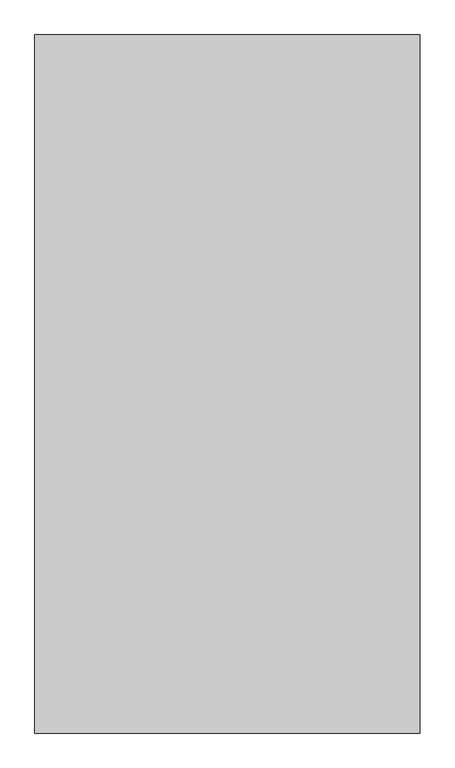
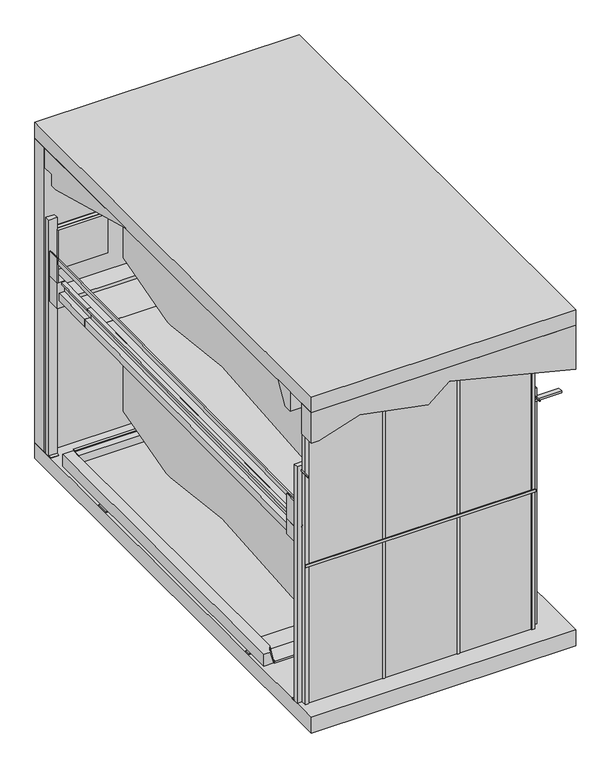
"""IFC4 building model written with IfcOpenShell, lengths in millimetres: proxy geometry, TrendVario 6200+ : TrendVario 6200+."""

from ifc_helpers import new_model, si_unit, point, frame, frame_2d, origin, origin_with_axes, place, context, project, spatial, polyline, circle_curve, trimmed, segment, composite_curve, outline, extrude, faceted_brep, source, transform, mapped, element, save
from ifc_brep_helpers import plane_surface, cylinder_surface, spline_surface, advanced_brep


def generic_models_abb25ee0(model_context):
    return source(origin(), model_context, "Body", "SolidModel", [
        extrude(outline(composite_curve([segment(trimmed(circle_curve(frame_2d((2850.0, 5300.0602659)), 6.0), [point((2850.0, 5294.0602659))], [point((2850.0, 5306.0602659))], False, "CARTESIAN"), True, "CONTINUOUS"), segment(trimmed(circle_curve(frame_2d((2850.0, 5300.0602659)), 6.0), [point((2850.0, 5306.0602659))], [point((2850.0, 5294.0602659))], False, "CARTESIAN"), True, "CONTINUOUS")], self_intersect=False)), frame((0.0, 0.0, -150.0), z_axis=(0.0, 0.0, 1.0), x_axis=(1.0, 0.0, 0.0)), (0.0, 0.0, 1.0), 150.0),
        extrude(outline(composite_curve([segment(trimmed(circle_curve(frame_2d((50.0, 5300.0602653)), 6.0), [point((44.0, 5300.0602653))], [point((56.0, 5300.0602653))], False, "CARTESIAN"), True, "CONTINUOUS"), segment(trimmed(circle_curve(frame_2d((50.0, 5300.0602653)), 6.0), [point((56.0, 5300.0602653))], [point((44.0, 5300.0602653))], False, "CARTESIAN"), True, "CONTINUOUS")], self_intersect=False)), frame((0.0, 0.0, -150.0), z_axis=(0.0, 0.0, 1.0), x_axis=(1.0, 0.0, 0.0)), (0.0, 0.0, 1.0), 150.0),
        extrude(outline(composite_curve([segment(trimmed(circle_curve(frame_2d((2850.0, 170.0)), 6.0), [point((2850.0, 164.0))], [point((2850.0, 176.0))], False, "CARTESIAN"), True, "CONTINUOUS"), segment(trimmed(circle_curve(frame_2d((2850.0, 170.0)), 6.0), [point((2850.0, 176.0))], [point((2850.0, 164.0))], False, "CARTESIAN"), True, "CONTINUOUS")], self_intersect=False)), frame((0.0, 0.0, -150.0), z_axis=(0.0, 0.0, 1.0), x_axis=(1.0, 0.0, 0.0)), (0.0, 0.0, 1.0), 150.0),
        extrude(outline(composite_curve([segment(trimmed(circle_curve(frame_2d((50.0, 170.0)), 6.0), [point((44.0, 170.0))], [point((56.0, 170.0))], False, "CARTESIAN"), True, "CONTINUOUS"), segment(trimmed(circle_curve(frame_2d((50.0, 170.0)), 6.0), [point((56.0, 170.0))], [point((44.0, 170.0))], False, "CARTESIAN"), True, "CONTINUOUS")], self_intersect=False)), frame((0.0, 0.0, -150.0), z_axis=(0.0, 0.0, 1.0), x_axis=(1.0, 0.0, 0.0)), (0.0, 0.0, 1.0), 150.0),
        extrude(outline(composite_curve([segment(trimmed(circle_curve(frame_2d((2965.0, 2850.0)), 6.0), [point((2965.0, 2844.0))], [point((2965.0, 2856.0))], False, "CARTESIAN"), True, "CONTINUOUS"), segment(trimmed(circle_curve(frame_2d((2965.0, 2850.0)), 6.0), [point((2965.0, 2856.0))], [point((2965.0, 2844.0))], False, "CARTESIAN"), True, "CONTINUOUS")], self_intersect=False)), frame((0.0, -50.0, 0.0), z_axis=(0.0, 1.0, 0.0), x_axis=(0.0, 0.0, 1.0)), (0.0, 0.0, 1.0), 150.0),
        extrude(outline(composite_curve([segment(trimmed(circle_curve(frame_2d((2965.0, 50.0)), 6.0), [point((2965.0, 44.0))], [point((2965.0, 56.0))], False, "CARTESIAN"), True, "CONTINUOUS"), segment(trimmed(circle_curve(frame_2d((2965.0, 50.0)), 6.0), [point((2965.0, 56.0))], [point((2965.0, 44.0))], False, "CARTESIAN"), True, "CONTINUOUS")], self_intersect=False)), frame((0.0, -50.0, 0.0), z_axis=(0.0, 1.0, 0.0), x_axis=(0.0, 0.0, 1.0)), (0.0, 0.0, 1.0), 150.0),
        extrude(outline(composite_curve([segment(trimmed(circle_curve(frame_2d((2965.0, 50.0)), 6.0), [point((2965.0, 44.0))], [point((2965.0, 56.0))], False, "CARTESIAN"), True, "CONTINUOUS"), segment(trimmed(circle_curve(frame_2d((2965.0, 50.0)), 6.0), [point((2965.0, 56.0))], [point((2965.0, 44.0))], False, "CARTESIAN"), True, "CONTINUOUS")], self_intersect=False)), frame((0.0, 5369.5816653, 0.0), z_axis=(0.0, 1.0, 0.0), x_axis=(0.0, 0.0, 1.0)), (0.0, 0.0, 1.0), 150.0),
        extrude(outline(composite_curve([segment(trimmed(circle_curve(frame_2d((2965.0, 2850.0)), 6.0), [point((2965.0, 2844.0))], [point((2965.0, 2856.0))], False, "CARTESIAN"), True, "CONTINUOUS"), segment(trimmed(circle_curve(frame_2d((2965.0, 2850.0)), 6.0), [point((2965.0, 2856.0))], [point((2965.0, 2844.0))], False, "CARTESIAN"), True, "CONTINUOUS")], self_intersect=False)), frame((0.0, 5369.6045102, 0.0), z_axis=(0.0, 1.0, 0.0), x_axis=(0.0, 0.0, 1.0)), (0.0, 0.0, 1.0), 150.0),
        extrude(outline(polyline([(0.0, -60.0), (0.0, 0.0), (4430.0, 0.0), (4430.0, -60.0), (0.0, -60.0)])), frame((2811.0, 171.9869847, 2038.264563), z_axis=(0.0, -0.008726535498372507, 0.9999619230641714), x_axis=(0.0, 0.9999619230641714, 0.008726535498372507)), (0.0, 0.0, 1.0), 100.0),
        extrude(outline(polyline([(0.0, -19.0), (0.0, 0.0), (4440.0, 0.0), (4440.0, -19.0), (0.0, -19.0)])), frame((2863.0, 167.9116926, 2505.246781), z_axis=(0.0, -0.008726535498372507, 0.9999619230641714), x_axis=(0.0, 0.9999619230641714, 0.008726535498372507)), (0.0, 0.0, 1.0), 56.0),
        faceted_brep([(2800.0, 4599.8286538, 2304.9144337), (2843.0, 4599.8286538, 2304.9144337), (2843.0, 4600.0904499, 2274.915576), (2840.0, 4600.0904499, 2274.915576), (2840.0, 4599.8548334, 2301.9145479), (2803.0, 4599.8548334, 2301.9145479), (2803.0, 4602.6211451, 1984.9266183), (2748.0, 4602.6211451, 1984.9266183), (2748.0, 4602.210998, 2031.9248287), (2711.0, 4602.210998, 2031.9248287), (2711.0, 4602.1848184, 2034.9247145), (2751.0, 4602.1848184, 2034.9247145), (2751.0, 4602.5949655, 1987.9265041), (2800.0, 4602.5949655, 1987.9265041), (2803.0, 102.7924914, 1945.6572086), (2803.0, 100.0261796, 2262.6451382), (2840.0, 100.0261796, 2262.6451382), (2840.0, 100.2617961, 2235.6461663), (2843.0, 100.2617961, 2235.6461663), (2843.0, 100.0, 2265.645024), (2800.0, 100.0, 2265.645024), (2800.0, 102.7924914, 1945.6572086), (2800.0, 202.7886837, 1946.5298621), (2748.0, 202.7886837, 1946.5298621), (2748.0, 202.3785365, 1993.5280725), (2711.0, 202.3785365, 1993.5280725), (2711.0, 202.3523569, 1996.5279583), (2751.0, 202.3523569, 1996.5279583), (2751.0, 202.7625041, 1949.5297479), (2800.0, 202.7625041, 1949.5297479)], [[[0, 1, 2, 3, 4, 5, 6, 7, 8, 9, 10, 11, 12, 13]], [[14, 15, 16, 17, 18, 19, 20, 21]], [[1, 0, 20, 19]], [[2, 1, 19, 18]], [[3, 2, 18, 17]], [[4, 3, 17, 16]], [[5, 4, 16, 15]], [[6, 5, 15, 14]], [[7, 6, 14, 21, 22, 23]], [[8, 7, 23, 24]], [[9, 8, 24, 25]], [[10, 9, 25, 26]], [[11, 10, 26, 27]], [[12, 11, 27, 28]], [[13, 12, 28, 29]], [[0, 13, 29, 22, 21, 20]], [[22, 29, 28, 27, 26, 25, 24, 23]]]),
        extrude(outline(polyline([(2133.867435, 0.0), (2133.867435, -1200.0), (-1962.132565, -1200.0), (-1962.132565, 0.0), (2133.867435, 0.0)])), frame((1600.0, 2468.3986345, 2016.3034445), z_axis=(0.0, -0.008726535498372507, 0.9999619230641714), x_axis=(0.0, 0.9999619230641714, 0.008726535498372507)), (0.0, 0.0, 1.0), 8.0),
        extrude(outline(polyline([(0.0, -1500.0), (0.0, 0.0), (769.9999999, 0.0), (769.9999999, -1500.0), (0.0, -1500.0)])), frame((100.0, 4602.1898877, 2034.9247587), z_axis=(0.0, -0.008726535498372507, 0.9999619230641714), x_axis=(0.0, 0.9999619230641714, 0.008726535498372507)), (0.0, 0.0, 1.0), 8.0),
        extrude(outline(polyline([(5133.7158509, 2091.5652956), (5371.7067886, 2093.642211), (5372.0907561, 2049.6438864), (5369.0908704, 2049.6177068), (5368.7330824, 2090.6161457), (5136.7419163, 2088.5915894), (5137.0997042, 2047.5931506), (5134.0998185, 2047.566971), (5133.7158509, 2091.5652956)])), frame((100.0, 0.0, 0.0), z_axis=(1.0, 0.0, 0.0), x_axis=(0.0, 1.0, 0.0)), (0.0, 0.0, 1.0), 1500.0),
        extrude(outline(polyline([(319.9999999, 0.0), (319.9999999, -43.0), (289.9999999, -43.0), (289.9999999, -40.0), (317.0, -40.0), (317.0, -3.0), (0.0, -3.0), (0.0, 52.0), (46.9999999, 52.0), (46.9999999, 89.0), (49.9999999, 89.0), (49.9999999, 49.0), (2.9999999, 49.0), (2.9999999, 0.0), (319.9999999, 0.0)])), frame((100.0, 4602.6262144, 1984.9266626), z_axis=(0.0, 0.9999619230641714, 0.008726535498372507), x_axis=(0.0, -0.008726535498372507, 0.9999619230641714)), (0.0, 0.0, 1.0), 770.0),
        extrude(outline(polyline([(200.0, 8.0), (200.0, 0.0), (100.0, 0.0), (100.0, 3025.0), (160.0, 3025.0), (160.0, 8.0), (200.0, 8.0)])), frame((0.0, 0.0, 0.0), z_axis=(1.0, 0.0, 0.0), x_axis=(0.0, 1.0, 0.0)), (0.0, 0.0, 1.0), 100.0),
        faceted_brep([(0.0, 5249.9885779, 3650.0), (3201.0, 5249.9885779, 3650.0), (3201.0, 5249.9885779, 3500.0), (0.0, 5249.9885779, 3500.0), (0.0, 5399.9657348, 3650.0), (3201.0, 5399.9657348, 3650.0), (3201.0, 5167.6820669, 3500.0), (3201.0, 3699.9673137, 3900.0057953), (0.0, 3699.9885779, 3900.0), (0.0, 5167.6820669, 3500.0), (3201.0, 5399.9657348, 3900.0), (0.0, 5399.9657348, 3900.0)], [[[0, 1, 2, 3]], [[1, 0, 4, 5]], [[6, 7, 8, 9]], [[10, 7, 6, 2, 1, 5]], [[8, 11, 4, 0, 3, 9]], [[11, 10, 5, 4]], [[7, 10, 11, 8]], [[2, 6, 9, 3]]]),
        extrude(outline(polyline([(3511.8273555, 0.0), (3511.8273555, 90.0080034), (3672.5161926, 584.5573919), (3511.8273555, 1411.229794), (3719.8801857, 1665.5456754), (3337.0484255, 3201.0), (3900.0, 3201.0), (3900.0, 0.0), (3511.8273555, 0.0)])), frame((0.0, -200.0, 0.0), z_axis=(0.0, 1.0, 0.0), x_axis=(0.0, 0.0, 1.0)), (0.0, 0.0, 1.0), 200.0),
        extrude(outline(polyline([(100.0, 45.0), (100.0, 55.0), (2800.0, 55.0), (2800.0, 45.0), (100.0, 45.0)])), origin_with_axes(), (0.0, 0.0, 1.0), 3526.0),
        extrude(outline(polyline([(1932.0, 44.0), (1932.0, 35.0), (1902.0, 35.0), (1902.0, 44.0), (1932.0, 44.0)])), origin_with_axes(), (0.0, 0.0, 1.0), 3526.0),
        extrude(outline(polyline([(1031.0, 44.0), (1031.0, 35.0), (1001.0, 35.0), (1001.0, 44.0), (1031.0, 44.0)])), origin_with_axes(), (0.0, 0.0, 1.0), 3526.0),
        extrude(outline(polyline([(0.0, -19.0), (0.0, 0.0), (5147.1058324, 0.0), (5147.1058324, -19.0), (0.0, -19.0)])), frame((37.0, 5302.7546227, 2550.0578764), z_axis=(0.0, -0.008726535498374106, 0.9999619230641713), x_axis=(0.0, -0.9999619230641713, -0.008726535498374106)), (0.0, 0.0, 1.0), 56.0),
        extrude(outline(polyline([(18.0, 5142.5968952), (7.0, 5142.5968952), (7.0, 5312.5968952), (18.0, 5312.5968952), (18.0, 5142.5968952)])), frame((0.0, 0.0, 2319.0), z_axis=(0.0, 0.0, 1.0), x_axis=(1.0, 0.0, 0.0)), (0.0, 0.0, 1.0), 310.0),
        extrude(outline(polyline([(2882.0, 5142.0602659), (2882.0, 5312.0602659), (2893.0, 5312.0602659), (2893.0, 5142.0602659), (2882.0, 5142.0602659)])), frame((0.0, 0.0, 2319.0), z_axis=(0.0, 0.0, 1.0), x_axis=(1.0, 0.0, 0.0)), (0.0, 0.0, 1.0), 310.0),
        advanced_brep(
        [(2878.3930268, 838.0907234, 21.8284597), (2878.3930268, 838.0907234, 173.2797049), (2800.0, 838.0907234, 173.2797049), (2760.0, 838.0907234, 21.8284597), (2878.3930268, 5057.0907234, 21.8284597), (2750.0, 5057.0907234, 21.8284597), (2750.0, 5057.0907234, 173.2797049), (2878.3930268, 5057.0907234, 173.2797049), (2750.0, 938.0907234, 173.2797049), (2750.0, 848.0907234, 21.8284597)],
        [
            (0, 1),
            (1, 2),
            (2, 3),
            (3, 0),
            (4, 5),
            (5, 6),
            (6, 7),
            (7, 4),
            (0, 4),
            (7, 1),
            (6, 8),
            (8, 2),
            (5, 9),
            (9, 8),
            (3, 9),
        ],
        [
            plane_surface(frame((2750.0, 838.0907234, 0.0), z_axis=(0.0, -1.0, 0.0), x_axis=(0.0, 0.0, 1.0))),
            plane_surface(frame((2750.0, 5057.0907234, 0.0), z_axis=(0.0, 1.0, 0.0), x_axis=(0.0, 0.0, 1.0))),
            plane_surface(frame((2878.3930268, 838.0907234, 21.8284597), z_axis=(1.0, 0.0, 0.0), x_axis=(0.0, 1.0, 0.0))),
            plane_surface(frame((2878.3930268, 838.0907234, 173.2797049), z_axis=(0.0, 0.0, 1.0), x_axis=(0.0, 1.0, 0.0))),
            plane_surface(frame((2750.0, 838.0907234, 173.2797049), z_axis=(-1.0, 0.0, 0.0), x_axis=(0.0, 1.0, 0.0))),
            plane_surface(frame((2750.0, 838.0907234, 21.8284597), z_axis=(0.0, 0.0, -1.0), x_axis=(0.0, 1.0, 0.0))),
            spline_surface(1, 1, [[(2750.0, 938.0907234, 173.2797049), (2800.0, 838.0907234, 173.2797049)], [(2750.0, 848.0907234, 21.8284597), (2760.0, 838.0907234, 21.8284597)]], [2, 2], [2, 2], [0.0, 1.0], [0.0, 1.0]),
        ],
        [
            (0, [[1, 2, 3, 4]]),
            (1, [[5, 6, 7, 8]]),
            (2, [[-1, 9, -8, 10]]),
            (3, [[-7, 11, 12, -2, -10]]),
            (4, [[-6, 13, 14, -11]]),
            (5, [[-5, -9, -4, 15, -13]]),
            (6, [[-3, -12, -14, -15]]),
        ],
    ),
        advanced_brep(
        [(22.4384321, 838.0907234, 173.2797049), (22.4384321, 838.0907234, 20.8412855), (140.0, 838.0907234, 20.8412855), (100.0, 838.0907234, 173.2797049), (150.0, 5057.0907234, 20.8412855), (22.4384321, 5057.0907234, 20.8412855), (22.4384321, 5057.0907234, 173.2797049), (150.0, 5057.0907234, 173.2797049), (150.0, 938.0907234, 173.2797049), (150.0, 848.0907234, 20.8412855)],
        [
            (0, 1),
            (1, 2),
            (2, 3),
            (3, 0),
            (4, 5),
            (5, 6),
            (6, 7),
            (7, 4),
            (7, 8),
            (8, 9),
            (9, 4),
            (6, 0),
            (3, 8),
            (5, 1),
            (9, 2),
        ],
        [
            plane_surface(frame((150.0, 838.0907234, 20.8412855), z_axis=(0.0, -1.0, 0.0), x_axis=(0.0, 0.0, 1.0))),
            plane_surface(frame((150.0, 5057.0907234, 20.8412855), z_axis=(0.0, 1.0, 0.0), x_axis=(0.0, 0.0, -1.0))),
            plane_surface(frame((150.0, 838.0907234, 20.8412855), z_axis=(1.0, 0.0, 0.0), x_axis=(0.0, 1.0, 0.0))),
            plane_surface(frame((150.0, 838.0907234, 173.2797049), z_axis=(0.0, 0.0, 1.0), x_axis=(0.0, 1.0, 0.0))),
            plane_surface(frame((22.4384321, 838.0907234, 173.2797049), z_axis=(-1.0, 0.0, 0.0), x_axis=(0.0, 1.0, 0.0))),
            plane_surface(frame((22.4384321, 838.0907234, 20.8412855), z_axis=(0.0, 0.0, -1.0), x_axis=(0.0, 1.0, 0.0))),
            spline_surface(1, 1, [[(150.0, 848.0907234, 20.8412855), (140.0, 838.0907234, 20.8412855)], [(150.0, 938.0907234, 173.2797049), (100.0, 838.0907234, 173.2797049)]], [2, 2], [2, 2], [0.0, 1.0], [0.0, 1.0]),
        ],
        [
            (0, [[1, 2, 3, 4]]),
            (1, [[5, 6, 7, 8]]),
            (2, [[-8, 9, 10, 11]]),
            (3, [[-7, 12, -4, 13, -9]]),
            (4, [[-1, -12, -6, 14]]),
            (5, [[-5, -11, 15, -2, -14]]),
            (6, [[-3, -15, -10, -13]]),
        ],
    ),
        extrude(outline(polyline([(5369.6045102, 0.0), (5270.0602659, 0.0), (5270.0602659, 8.0), (5310.0602659, 8.0), (5310.0602659, 3025.0), (5369.6045102, 3025.0), (5369.6045102, 0.0)])), frame((2800.0, 0.0, 0.0), z_axis=(1.0, 0.0, 0.0), x_axis=(0.0, 1.0, 0.0)), (0.0, 0.0, 1.0), 100.0),
        extrude(outline(polyline([(5269.5968952, 0.0), (5269.5968952, 8.0), (5309.5968952, 8.0), (5309.5968952, 3025.0), (5369.5968952, 3025.0), (5369.5968952, 0.0), (5269.5968952, 0.0)])), frame((0.0, 0.0, 0.0), z_axis=(1.0, 0.0, 0.0), x_axis=(0.0, 1.0, 0.0)), (0.0, 0.0, 1.0), 100.0),
        advanced_brep(
        [(850.0, 5220.0526533, 335.5997321), (850.0, 4313.3699728, 92.6548401), (850.0, 4224.7221662, 85.0351129), (850.0, 3145.3807126, 219.0), (850.0, 1424.180165, 85.3914386), (850.0, 1340.4923675, 90.5100035), (850.0, 220.4923675, 349.0823776), (850.0, 220.4923675, 1334.0), (850.0, 520.4923675, 1884.0), (850.0, 3620.0831131, 1884.0000002), (850.0, 5220.0526556, 1434.0085664), (2750.0, 220.4923675, 349.0823776), (2750.0, 1340.4923675, 90.5100035), (2750.0, 1424.180165, 85.3914386), (2750.0, 3145.3807126, 219.0), (2750.0, 4224.7221662, 85.0351129), (2750.0, 4313.3699728, 92.6548401), (2750.0, 5220.0526533, 335.5997321), (2750.0, 5220.0526556, 1434.0085664), (2750.0, 3620.0831131, 1884.0000002), (2750.0, 520.4923675, 1884.0), (2750.0, 220.4923675, 1334.0)],
        [
            (0, 1),
            (1, 2, circle_curve(frame((850.0, 4247.6299354, 338.0), z_axis=(-1.0, 0.0, 0.0), x_axis=(0.0, 1.0, 0.0)), 254.0)),
            (2, 3),
            (3, 4),
            (4, 5, circle_curve(frame((850.0, 1397.6299354, 338.0), z_axis=(-1.0, 0.0, 0.0), x_axis=(0.0, 1.0, 0.0)), 254.0)),
            (5, 6),
            (6, 7),
            (7, 8),
            (8, 9),
            (9, 10),
            (10, 0),
            (11, 12),
            (12, 13, circle_curve(frame((2750.0, 1397.6299354, 338.0), z_axis=(1.0, 0.0, 0.0), x_axis=(0.0, 1.0, 0.0)), 254.0)),
            (13, 14),
            (14, 15),
            (15, 16, circle_curve(frame((2750.0, 4247.6299354, 338.0), z_axis=(1.0, 0.0, 0.0), x_axis=(0.0, 1.0, 0.0)), 254.0)),
            (16, 17),
            (17, 18),
            (18, 19),
            (19, 20),
            (20, 21),
            (21, 11),
            (17, 0),
            (10, 18),
            (16, 1),
            (15, 2),
            (14, 3),
            (13, 4),
            (12, 5),
            (11, 6),
            (21, 7),
            (9, 19),
            (8, 20),
        ],
        [
            plane_surface(frame((850.0, 220.4923675, 0.0), z_axis=(-1.0, 0.0, 0.0), x_axis=(0.0, 0.0, 1.0))),
            plane_surface(frame((2750.0, 220.4923675, 0.0), z_axis=(1.0, 0.0, 0.0), x_axis=(0.0, 0.0, 1.0))),
            plane_surface(frame((850.0, 5220.0526533, 1105.8846371), z_axis=(0.0, 1.0, 0.0), x_axis=(1.0, 0.0, 0.0))),
            plane_surface(frame((850.0, 5220.0526533, 335.5997321), z_axis=(0.0, 0.25881904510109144, -0.9659258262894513), x_axis=(1.0, 0.0, 0.0))),
            cylinder_surface(frame((850.0, 4247.6299354, 338.0), z_axis=(-1.0, 0.0, 0.0), x_axis=(0.0, 1.0, 0.0)), 254.0),
            plane_surface(frame((850.0, 4224.7221662, 85.0351129), z_axis=(0.0, -0.12317213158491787, -0.992385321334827), x_axis=(1.0, 0.0, 0.0))),
            plane_surface(frame((850.0, 3145.3807126, 219.0), z_axis=(0.0, 0.07739239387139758, -0.9970007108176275), x_axis=(1.0, 0.0, 0.0))),
            cylinder_surface(frame((850.0, 1397.6299354, 338.0), z_axis=(-1.0, 0.0, 0.0), x_axis=(0.0, 1.0, 0.0)), 254.0),
            plane_surface(frame((850.0, 1340.4923675, 90.5100035), z_axis=(0.0, -0.22495105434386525, -0.9743700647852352), x_axis=(1.0, 0.0, 0.0))),
            plane_surface(frame((850.0, 220.4923675, 349.0823776), z_axis=(0.0, -1.0, 0.0), x_axis=(1.0, 0.0, 0.0))),
            plane_surface(frame((850.0, 3620.0831131, 1884.0000002), z_axis=(0.0, 0.27074557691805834, 0.9626509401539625), x_axis=(1.0, 0.0, 0.0))),
            plane_surface(frame((850.0, 620.4885622, 1884.0000002), z_axis=(0.0, 0.0, 1.0), x_axis=(1.0, 0.0, 0.0))),
            plane_surface(frame((850.0, 220.4923675, 1334.0), z_axis=(0.0, -0.8778955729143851, 0.478852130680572), x_axis=(1.0, 0.0, 0.0))),
        ],
        [
            (0, [[1, 2, 3, 4, 5, 6, 7, 8, 9, 10, 11]]),
            (1, [[12, 13, 14, 15, 16, 17, 18, 19, 20, 21, 22]]),
            (2, [[23, -11, 24, -18]]),
            (3, [[-1, -23, -17, 25]]),
            (4, [[-2, -25, -16, 26]]),
            (5, [[-3, -26, -15, 27]]),
            (6, [[-4, -27, -14, 28]]),
            (7, [[-5, -28, -13, 29]]),
            (8, [[-6, -29, -12, 30]]),
            (9, [[-7, -30, -22, 31]]),
            (10, [[-10, 32, -19, -24]]),
            (11, [[-20, -32, -9, 33]]),
            (12, [[-8, -31, -21, -33]]),
        ],
    ),
        advanced_brep(
        [(850.0080034, 219.0783305, 2530.0), (850.0080034, 212.7549246, 3254.5905482), (850.0080034, 507.9448535, 3807.0791047), (850.0080034, 614.5742843, 3808.0096456), (850.0080034, 616.0660458, 3810.8016825), (850.0080034, 3620.0751529, 3837.0172728), (850.0080034, 5220.0526533, 3400.9650555), (850.0080034, 5220.0602659, 2299.8475577), (850.0080034, 4315.7898833, 2049.0711861), (850.0080034, 4227.211946, 2040.6781608), (850.0080034, 3146.7425411, 2165.2190354), (850.0080034, 1426.7734714, 2016.5954437), (850.0080034, 1343.0441931, 2020.9835093), (850.0080034, 226.8699728, 2268.4333765), (850.0080034, 224.5873155, 2530.0), (2750.0080034, 507.9448535, 3807.0791047), (2750.0080034, 212.7549245, 3254.5905482), (2750.0080034, 219.0783305, 2530.0), (2750.0080034, 224.5873155, 2530.0), (2750.0080034, 226.8699728, 2268.4333765), (2750.0080034, 1343.0441931, 2020.9835093), (2750.0080034, 1426.7734714, 2016.5954437), (2750.0080034, 3146.7425411, 2165.2190354), (2750.0080034, 4227.211946, 2040.6781608), (2750.0080034, 4315.7898833, 2049.0711861), (2750.0080034, 5220.0602659, 2299.8475577), (2750.0080034, 5220.0526533, 3400.9650555), (2750.0080034, 3620.0751529, 3837.0172728), (2750.0080034, 616.0660458, 3810.8016825), (2750.0080034, 614.5742843, 3808.0096456)],
        [
            (0, 1),
            (1, 2),
            (2, 3),
            (3, 4),
            (4, 5),
            (5, 6),
            (6, 7),
            (7, 8),
            (8, 9, circle_curve(frame((850.0080034, 4247.9113358, 2293.8333213), z_axis=(-1.0, 6.846874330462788e-12, 0.0), x_axis=(6.846340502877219e-12, 0.9999619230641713, 0.008726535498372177)), 254.0)),
            (9, 10),
            (10, 11),
            (11, 12, circle_curve(frame((850.0080034, 1398.0198551, 2268.9626951), z_axis=(-1.0, 6.846874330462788e-12, 0.0), x_axis=(6.846340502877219e-12, 0.9999619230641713, 0.008726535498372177)), 254.0)),
            (12, 13),
            (13, 14),
            (14, 0),
            (15, 16),
            (16, 17),
            (17, 18),
            (18, 19),
            (19, 20),
            (20, 21, circle_curve(frame((2750.0080034, 1398.0198551, 2268.9626951), z_axis=(1.0, -6.846874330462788e-12, 0.0), x_axis=(6.846340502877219e-12, 0.9999619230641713, 0.008726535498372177)), 254.0)),
            (21, 22),
            (22, 23),
            (23, 24, circle_curve(frame((2750.0080034, 4247.9113358, 2293.8333213), z_axis=(1.0, -6.846874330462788e-12, 0.0), x_axis=(6.846340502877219e-12, 0.9999619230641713, 0.008726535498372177)), 254.0)),
            (24, 25),
            (25, 26),
            (26, 27),
            (27, 28),
            (28, 29),
            (29, 15),
            (2, 15),
            (29, 3),
            (1, 16),
            (17, 0),
            (14, 18),
            (4, 28),
            (27, 5),
            (26, 6),
            (25, 7),
            (24, 8),
            (23, 9),
            (22, 10),
            (21, 11),
            (20, 12),
            (19, 13),
        ],
        [
            plane_surface(frame((850.0080034, 428.8717402, 3900.0), z_axis=(-1.0, 6.846035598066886e-12, 0.0), x_axis=(0.0, 0.0, 1.0))),
            plane_surface(frame((2750.0080034, 428.8717402, 3900.0), z_axis=(1.0, -6.846035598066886e-12, 0.0), x_axis=(0.0, 0.0, 1.0))),
            plane_surface(frame((850.0080034, 507.9448535, 3807.0791047), z_axis=(0.0, -0.008726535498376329, 0.9999619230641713), x_axis=(1.0, -6.846035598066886e-12, 0.0))),
            plane_surface(frame((850.0080034, 212.7549246, 3254.5905482), z_axis=(-6.038215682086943e-12, -0.8820017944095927, 0.4712460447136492), x_axis=(1.0, -6.846035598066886e-12, 0.0))),
            plane_surface(frame((850.0080034, 4789.9238543, 2530.0), z_axis=(0.0, 0.0, -1.0), x_axis=(1.0, -6.845999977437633e-12, 0.0))),
            plane_surface(frame((850.0080034, 219.0783305, 2530.0), z_axis=(-6.845774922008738e-12, -0.9999619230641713, -0.008726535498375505), x_axis=(1.0, -6.846035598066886e-12, 0.0))),
            plane_surface(frame((850.0080034, 616.0660458, 3810.8016825), z_axis=(0.0, -0.008726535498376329, 0.9999619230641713), x_axis=(1.0, -6.845999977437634e-12, 0.0))),
            plane_surface(frame((850.0080034, 3620.0751529, 3837.0172728), z_axis=(1.8001286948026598e-12, 0.2629460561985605, 0.9648105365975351), x_axis=(1.0, -6.845999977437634e-12, 0.0))),
            plane_surface(frame((850.0080034, 320.8761169, 3258.313126), z_axis=(-6.0382156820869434e-12, -0.8820017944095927, 0.4712460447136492), x_axis=(1.0, -6.846035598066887e-12, 0.0))),
            plane_surface(frame((850.0080034, 5220.0526533, 3400.9650555), z_axis=(6.845999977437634e-12, 1.0, 0.0), x_axis=(1.0, -6.845999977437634e-12, 0.0))),
            plane_surface(frame((2750.0080034, 4315.7898833, 2049.0711861), z_axis=(1.7721223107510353e-12, 0.26723837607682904, -0.963630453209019), x_axis=(-1.0, 6.8459999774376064e-12, 0.0))),
            cylinder_surface(frame((2750.0080034, 4247.9113358, 2293.8333213), z_axis=(1.0, -6.846874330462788e-12, 0.0), x_axis=(6.846340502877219e-12, 0.9999619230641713, 0.008726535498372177)), 254.0),
            plane_surface(frame((2750.0080034, 3146.7425411, 2165.2190354), z_axis=(0.0, -0.11450735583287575, -0.9934224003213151), x_axis=(-1.0, 6.845999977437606e-12, 0.0))),
            plane_surface(frame((2750.0080034, 1426.7734714, 2016.5954437), z_axis=(0.0, 0.08608980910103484, -0.9962873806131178), x_axis=(-1.0, 6.845999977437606e-12, 0.0))),
            cylinder_surface(frame((2750.0080034, 1398.0198551, 2268.9626951), z_axis=(1.0, -6.846874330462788e-12, 0.0), x_axis=(6.846340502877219e-12, 0.9999619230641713, 0.008726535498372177)), 254.0),
            plane_surface(frame((2750.0080034, 226.8699728, 2268.4333765), z_axis=(-1.5398915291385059e-12, -0.21643961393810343, -0.9762960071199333), x_axis=(-1.0, 6.845999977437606e-12, 0.0))),
            plane_surface(frame((2750.0080034, 220.9776342, 2943.6285041), z_axis=(-6.8462590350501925e-12, -0.9999619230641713, -0.00872653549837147), x_axis=(-1.0, 6.845999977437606e-12, 0.0))),
        ],
        [
            (0, [[1, 2, 3, 4, 5, 6, 7, 8, 9, 10, 11, 12, 13, 14, 15]]),
            (1, [[16, 17, 18, 19, 20, 21, 22, 23, 24, 25, 26, 27, 28, 29, 30]]),
            (2, [[31, -30, 32, -3]]),
            (3, [[-2, 33, -16, -31]]),
            (4, [[34, -15, 35, -18]]),
            (5, [[-1, -34, -17, -33]]),
            (6, [[-5, 36, -28, 37]]),
            (7, [[-6, -37, -27, 38]]),
            (8, [[-36, -4, -32, -29]]),
            (9, [[-7, -38, -26, 39]]),
            (10, [[-25, 40, -8, -39]]),
            (11, [[-24, 41, -9, -40]]),
            (12, [[-23, 42, -10, -41]]),
            (13, [[-22, 43, -11, -42]]),
            (14, [[-21, 44, -12, -43]]),
            (15, [[-20, 45, -13, -44]]),
            (16, [[-45, -19, -35, -14]]),
        ],
    ),
        extrude(outline(polyline([(1932.0, 35.0), (1902.0, 35.0), (1902.0, 44.0), (1932.0, 44.0), (1932.0, 35.0)])), origin_with_axes(), (0.0, 0.0, 1.0), 3526.0),
        extrude(outline(polyline([(1031.0, 35.0), (1001.0, 35.0), (1001.0, 44.0), (1031.0, 44.0), (1031.0, 35.0)])), origin_with_axes(), (0.0, 0.0, 1.0), 3526.0),
        extrude(outline(polyline([(3201.0, 153.0), (3201.0, 100.0), (97.0, 100.0), (97.0, 153.0), (3201.0, 153.0)])), frame((0.0, 0.0, 2854.0), z_axis=(0.0, 0.0, 1.0), x_axis=(1.0, 0.0, 0.0)), (0.0, 0.0, 1.0), 25.0),
        extrude(outline(polyline([(97.0, 5319.5968952), (97.0, 5369.5968952), (3201.0, 5369.5968952), (3201.0, 5319.5968952), (97.0, 5319.5968952)])), frame((0.0, 0.0, 2854.0), z_axis=(0.0, 0.0, 1.0), x_axis=(1.0, 0.0, 0.0)), (0.0, 0.0, 1.0), 25.0),
        extrude(outline(polyline([(700.0, 5369.6045096), (700.0, 5284.6045096), (100.0, 5284.6045096), (100.0, 5369.6045096), (700.0, 5369.6045096)])), frame((0.0, 0.0, 2379.0), z_axis=(0.0, 0.0, 1.0), x_axis=(1.0, 0.0, 0.0)), (0.0, 0.0, 1.0), 500.0),
        extrude(outline(polyline([(250.0, 3650.0), (250.0, 3900.0), (500.0, 3900.0), (349.6363636, 3650.0), (250.0, 3650.0)])), frame((0.0, 0.0, 0.0), z_axis=(1.0, 0.0, 0.0), x_axis=(0.0, 1.0, 0.0)), (0.0, 0.0, 1.0), 3201.0),
        extrude(outline(polyline([(60.0, 32.0), (60.0, 100.0), (2840.0, 100.0), (2840.0, 32.0), (60.0, 32.0)])), frame((0.0, 0.0, 3526.0), z_axis=(0.0, 0.0, 1.0), x_axis=(1.0, 0.0, 0.0)), (0.0, 0.0, 1.0), 74.0),
        extrude(outline(polyline([(60.0, 20.0), (60.0, 34.0), (2840.0, 34.0), (2840.0, 20.0), (60.0, 20.0)])), frame((0.0, 0.0, 1763.0), z_axis=(0.0, 0.0, 1.0), x_axis=(1.0, 0.0, 0.0)), (0.0, 0.0, 1.0), 30.0),
        extrude(outline(polyline([(2840.0, 32.0), (2800.0, 32.0), (2800.0, 100.0), (2840.0, 100.0), (2840.0, 32.0)])), origin_with_axes(), (0.0, 0.0, 1.0), 3526.0),
        extrude(outline(polyline([(100.0, 32.0), (60.0, 32.0), (60.0, 100.0), (100.0, 100.0), (100.0, 32.0)])), origin_with_axes(), (0.0, 0.0, 1.0), 3526.0),
        extrude(outline(polyline([(0.0, -19.0), (0.0, 0.0), (702.4860602, 0.0), (702.4860602, -19.0), (0.0, -19.0)])), frame((2882.0, 5310.2019427, 2550.1228682), z_axis=(0.0, -0.00872653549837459, 0.9999619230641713), x_axis=(0.0, -0.9999619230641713, -0.00872653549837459)), (0.0, 0.0, 1.0), 56.0),
        extrude(outline(polyline([(0.0, -59.9999949), (0.0, 0.0), (622.0497333, 0.0), (622.0497333, -59.9999949), (0.0, -59.9999949)])), frame((2810.9999948, 4601.8183039, 2076.9231152), z_axis=(0.0, -0.00872653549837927, 0.9999619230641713), x_axis=(0.0, 0.9999619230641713, 0.00872653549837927)), (0.0, 0.0, 1.0), 100.0),
        extrude(outline(polyline([(0.0, -60.0), (0.0, 0.0), (4430.0, 0.0), (4430.0, -60.0), (0.0, -60.0)])), frame((29.0, 171.9869847, 2038.264563), z_axis=(0.0, -0.008726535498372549, 0.9999619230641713), x_axis=(0.0, 0.9999619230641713, 0.008726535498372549)), (0.0, 0.0, 1.0), 100.0),
        extrude(outline(polyline([(0.0, -60.0), (0.0, 0.0), (585.0, 0.0), (585.0, -60.0), (0.0, -60.0)])), frame((29.0, 4601.8233732, 2076.9231595), z_axis=(0.0, -0.008726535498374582, 0.9999619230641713), x_axis=(0.0, 0.9999619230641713, 0.008726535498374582)), (0.0, 0.0, 1.0), 100.0),
        extrude(outline(polyline([(5312.0602659, 1991.0934303), (5142.0602659, 1989.6098628), (5142.0602659, 2314.0), (5312.0602659, 2314.0), (5312.0602659, 1991.0934303)])), frame((2803.0, 0.0, 0.0), z_axis=(1.0, 0.0, 0.0), x_axis=(0.0, 1.0, 0.0)), (0.0, 0.0, 1.0), 90.0),
        extrude(outline(polyline([(5142.5968952, 1989.6145459), (5142.5968952, 2314.0), (5312.5968952, 2314.0), (5312.5968952, 1991.0981134), (5142.5968952, 1989.6145459)])), frame((7.0, 0.0, 0.0), z_axis=(1.0, 0.0, 0.0), x_axis=(0.0, 1.0, 0.0)), (0.0, 0.0, 1.0), 90.0),
        extrude(outline(polyline([(7.0, 160.0), (7.0, 330.0), (18.0, 330.0), (18.0, 160.0), (7.0, 160.0)])), frame((0.0, 0.0, 2229.0), z_axis=(0.0, 0.0, 1.0), x_axis=(1.0, 0.0, 0.0)), (0.0, 0.0, 1.0), 315.0),
        extrude(outline(polyline([(7.0, 160.0), (7.0, 330.0), (97.0, 330.0), (97.0, 160.0), (7.0, 160.0)])), frame((0.0, 0.0, 2029.0), z_axis=(0.0, 0.0, 1.0), x_axis=(1.0, 0.0, 0.0)), (0.0, 0.0, 1.0), 195.0),
        extrude(outline(polyline([(2893.0, 330.0), (2893.0, 160.0), (2882.0, 160.0), (2882.0, 330.0), (2893.0, 330.0)])), frame((0.0, 0.0, 2229.0), z_axis=(0.0, 0.0, 1.0), x_axis=(1.0, 0.0, 0.0)), (0.0, 0.0, 1.0), 315.0),
        extrude(outline(polyline([(2893.0, 330.0), (2893.0, 160.0), (2803.0, 160.0), (2803.0, 330.0), (2893.0, 330.0)])), frame((0.0, 0.0, 2029.0), z_axis=(0.0, 0.0, 1.0), x_axis=(1.0, 0.0, 0.0)), (0.0, 0.0, 1.0), 195.0),
        extrude(outline(polyline([(100.0, 0.0), (100.0, 3025.0), (160.0, 3025.0), (160.0, 8.0), (200.0, 8.0), (200.0, 0.0), (100.0, 0.0)])), frame((2800.0, 0.0, 0.0), z_axis=(1.0, 0.0, 0.0), x_axis=(0.0, 1.0, 0.0)), (0.0, 0.0, 1.0), 100.0),
        extrude(outline(polyline([(2803.0, 5372.5968952), (2803.0, 5319.5968952), (97.0, 5319.5968952), (97.0, 5372.5968952), (2803.0, 5372.5968952)])), frame((0.0, 0.0, 2854.0), z_axis=(0.0, 0.0, 1.0), x_axis=(1.0, 0.0, 0.0)), (0.0, 0.0, 1.0), 25.0),
        extrude(outline(polyline([(2803.0, 140.0), (2803.0, 87.0), (100.0, 87.0), (100.0, 140.0), (2803.0, 140.0)])), frame((0.0, 0.0, 2854.0), z_axis=(0.0, 0.0, 1.0), x_axis=(1.0, 0.0, 0.0)), (0.0, 0.0, 1.0), 25.0),
        extrude(outline(polyline([(0.0, 1119.5968952), (0.0, 1179.5968952), (3201.0, 1179.5968952), (3201.0, 1119.5968952), (0.0, 1119.5968952)])), origin_with_axes(), (0.0, 0.0, 1.0), 15.0),
        extrude(outline(polyline([(0.0, 4119.5968952), (0.0, 4265.5968952), (3201.0, 4265.5968952), (3201.0, 4119.5968952), (0.0, 4119.5968952)])), origin_with_axes(), (0.0, 0.0, 1.0), 15.0),
        extrude(outline(polyline([(3201.0, 5399.9657348), (0.0, 5399.9657348), (0.0, 5599.9961923), (3201.0, 5599.9961923), (3201.0, 5399.9657348)])), origin_with_axes(), (0.0, 0.0, 1.0), 3900.0),
        faceted_brep([(100.0, 4599.8336906, 2304.9182049), (100.0, 4602.6000023, 1987.9302753), (149.0, 4602.6000023, 1987.9302753), (149.0, 4602.1898551, 2034.9284857), (189.0, 4602.1898551, 2034.9284857), (189.0, 4602.2160348, 2031.9285999), (152.0, 4602.2160348, 2031.9285999), (152.0, 4602.6261819, 1984.9303895), (97.0, 4602.6261819, 1984.9303895), (97.0, 4599.8598702, 2301.9183191), (60.0, 4599.8598702, 2301.9183191), (60.0, 4600.0954866, 2274.9193472), (57.0, 4600.0954866, 2274.9193472), (57.0, 4599.8336906, 2304.9182049), (100.0, 100.0, 1945.6365661), (100.0, 97.2075086, 2265.6243815), (57.0, 97.2075086, 2265.6243815), (57.0, 97.4693047, 2235.6255238), (60.0, 97.4693047, 2235.6255238), (60.0, 97.2336882, 2262.6244957), (97.0, 97.2336882, 2262.6244957), (97.0, 100.0, 1945.6365661), (100.0, 199.9961923, 1946.5092197), (100.0, 199.9700127, 1949.5091054), (149.0, 199.9700127, 1949.5091054), (149.0, 199.5598655, 1996.5073158), (189.0, 199.5598655, 1996.5073158), (189.0, 199.5860451, 1993.50743), (152.0, 199.5860451, 1993.50743), (152.0, 199.9961923, 1946.5092197)], [[[0, 1, 2, 3, 4, 5, 6, 7, 8, 9, 10, 11, 12, 13]], [[14, 15, 16, 17, 18, 19, 20, 21]], [[1, 0, 15, 14, 22, 23]], [[2, 1, 23, 24]], [[3, 2, 24, 25]], [[4, 3, 25, 26]], [[5, 4, 26, 27]], [[6, 5, 27, 28]], [[7, 6, 28, 29]], [[8, 7, 29, 22, 14, 21]], [[9, 8, 21, 20]], [[10, 9, 20, 19]], [[11, 10, 19, 18]], [[12, 11, 18, 17]], [[13, 12, 17, 16]], [[0, 13, 16, 15]], [[23, 22, 29, 28, 27, 26, 25, 24]]]),
        extrude(outline(polyline([(506.3333687, 2021.7621074), (506.6824301, 1981.7636305), (503.6825444, 1981.7374509), (503.3596625, 2018.736042), (261.7372106, 2016.6274348), (105.9840281, 1973.4332545), (112.3977491, 1950.3061236), (133.5976191, 1956.1853679), (134.3993342, 1953.2944765), (110.3085729, 1946.6135171), (102.2914216, 1975.5224307), (261.3160886, 2019.623874), (506.3333687, 2021.7621074)])), frame((100.0, 0.0, 0.0), z_axis=(1.0, 0.0, 0.0), x_axis=(0.0, 1.0, 0.0)), (0.0, 0.0, 1.0), 2700.0),
        extrude(outline(polyline([(3201.0, -200.0), (0.0, -200.0), (0.0, 5599.9961923), (3201.0, 5599.9961923), (3201.0, -200.0)])), frame((0.0, 0.0, -200.0), z_axis=(0.0, 0.0, 1.0), x_axis=(1.0, 0.0, 0.0)), (0.0, 0.0, 1.0), 200.0),
        extrude(outline(polyline([(3201.0, -200.0), (0.0, -200.0), (0.0, 5600.5968952), (3201.0, 5600.5968952), (3201.0, -200.0)])), frame((0.0, 0.0, 3900.0), z_axis=(0.0, 0.0, 1.0), x_axis=(1.0, 0.0, 0.0)), (0.0, 0.0, 1.0), 200.0),
        extrude(outline(polyline([(319.9719044, 0.0), (2.9719045, 0.0), (2.9719045, -49.0), (49.9719044, -49.0), (49.9719044, -89.0), (46.9719044, -89.0), (46.9719044, -52.0), (-0.0280956, -52.0), (-0.0280956, 3.0), (316.9719044, 3.0), (316.9719044, 40.0), (289.9719044, 40.0), (289.9719044, 43.0), (319.9719044, 43.0), (319.9719044, 0.0)])), frame((2800.0, 4602.6209, 1984.9303434), z_axis=(0.0, 0.9999619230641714, 0.008726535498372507), x_axis=(0.0, -0.008726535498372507, 0.9999619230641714)), (0.0, 0.0, 1.0), 770.0052822),
        extrude(outline(polyline([(300.4126792, 0.0), (300.4126792, -767.6410141), (-899.5873208, -767.6410141), (-899.5873208, 0.0), (300.4126792, 0.0)])), frame((2499.5873208, 5369.3942892, 2041.6200501), z_axis=(0.0, -0.008726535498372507, 0.9999619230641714), x_axis=(1.0, 0.0, 0.0)), (0.0, 0.0, 1.0), 8.0),
        extrude(outline(polyline([(5037.0953055, 61.9124781), (5034.8282574, 36.0), (4939.0907234, 36.0), (4939.0907234, 179.0), (5026.0907234, 179.0), (5026.0907234, 194.0), (5057.0907234, 194.0), (5057.0907234, 191.0), (5029.0907234, 191.0), (5029.0907234, 176.0), (4942.0907234, 176.0), (4942.0907234, 39.0), (5032.0792639, 39.0), (5034.1067214, 62.1739453), (5037.0953055, 61.9124781)])), frame((150.0, 0.0, 0.0), z_axis=(1.0, 0.0, 0.0), x_axis=(0.0, 1.0, 0.0)), (0.0, 0.0, 1.0), 2600.0),
        extrude(outline(polyline([(4329.2949793, 97.0604952), (4239.0907234, 97.0604952), (4239.0907234, 132.0604952), (4258.9285037, 186.5643505), (4264.5666594, 184.5122296), (4245.0907234, 131.0025334), (4245.0907234, 103.0604952), (4329.2949793, 103.0604952), (4329.2949793, 97.0604952)])), frame((1799.0959702, 0.0, 0.0), z_axis=(1.0, 0.0, 0.0), x_axis=(0.0, 1.0, 0.0)), (0.0, 0.0, 1.0), 950.9040298),
        extrude(outline(polyline([(1238.4657342, 84.0), (1238.4657342, 44.0), (1235.4657342, 44.0), (1235.4657342, 81.0), (993.8340817, 81.0), (837.7098942, 39.16665), (843.9215513, 15.9844302), (865.1719195, 21.6784492), (865.9483766, 18.7806717), (841.800231, 12.3101956), (834.0356596, 41.2879704), (993.4391242, 84.0), (1238.4657342, 84.0)])), frame((150.0, 0.0, 0.0), z_axis=(1.0, 0.0, 0.0), x_axis=(0.0, 1.0, 0.0)), (0.0, 0.0, 1.0), 2600.0),
        extrude(outline(polyline([(150.0, 1238.4657342), (150.0, 4939.0907234), (2750.0, 4939.0907234), (2750.0, 1238.4657342), (150.0, 1238.4657342)])), frame((0.0, 0.0, 79.0), z_axis=(0.0, 0.0, 1.0), x_axis=(1.0, 0.0, 0.0)), (0.0, 0.0, 1.0), 5.0),
        extrude(outline(polyline([(5371.6762983, 2093.6456722), (5372.0602659, 2049.6473476), (5369.0603801, 2049.621168), (5368.7025922, 2090.6196068), (5136.711426, 2088.5950506), (5137.069214, 2047.5966117), (5134.0693282, 2047.5704321), (5133.6853606, 2091.5687567), (5371.6762983, 2093.6456722)])), frame((1600.0, 0.0, 0.0), z_axis=(1.0, 0.0, 0.0), x_axis=(0.0, 1.0, 0.0)), (0.0, 0.0, 1.0), 1200.0),
        extrude(outline(polyline([(2038.9337722, 0.0), (2038.9337722, -1500.0), (-2056.8816536, -1500.0), (-2056.8816536, 0.0), (2038.9337722, 0.0)])), frame((1600.0, 2545.3865539, 2016.9753079), z_axis=(0.0, -0.008726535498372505, 0.9999619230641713), x_axis=(0.0, -0.9999619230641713, -0.008726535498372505)), (0.0, 0.0, 1.0), 8.0),
    ])


if __name__ == "__main__":
    model = new_model("IFC4")
    model_context = context("Model", 3, world=origin())
    ifc_project = project(units=[si_unit("LENGTHUNIT", "METRE", prefix="MILLI")], contexts=[model_context])
    site = spatial("IfcSite", under=ifc_project)
    building = spatial("IfcBuilding", under=site)
    placement = place(None, origin())
    generic_models_shape = generic_models_abb25ee0(model_context)
    element("IfcBuildingElementProxy", 1, Name="TrendVario 6200+ : TrendVario 6200+", ObjectType="TrendVario 6200+ : TrendVario 6200+", at=placement, inside=building, context=model_context, shape_type="MappedRepresentation", body=[
        mapped(generic_models_shape, transform((0.0, 0.0, 0.0), x_axis=(1.0, 0.0, 0.0), y_axis=(0.0, 1.0, 0.0), z_axis=(0.0, 0.0, 1.0))),
    ])
    save(model, "model.ifc")
